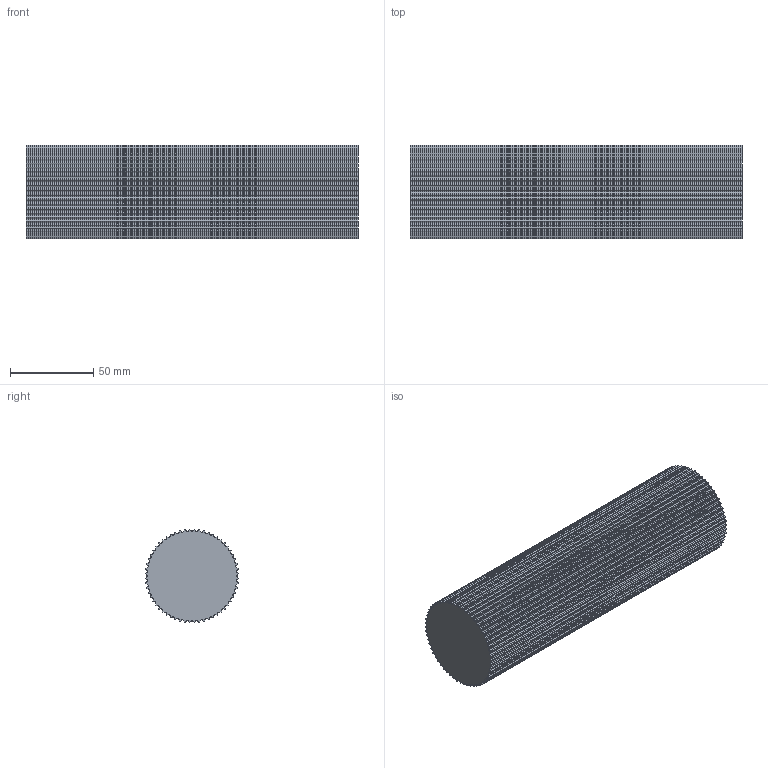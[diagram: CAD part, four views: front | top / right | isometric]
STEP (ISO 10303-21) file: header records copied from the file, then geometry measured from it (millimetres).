
FILE_DESCRIPTION( ( 'STEP AP214' ), '1' );
FILE_NAME( 'C:/Users/StangenbergN/Documents/CAD_Step/1/17096000.stp', '2019-08-23T07:11:51', ( '' ), ( '' ), ' ', 'PARTsolutions', ' ' );
FILE_SCHEMA( ( 'AUTOMOTIVE_DESIGN { 1 0 10303 214 1 1 1 1 }' ) );
Length unit declared in the file: millimetre
Products named in the file (1): _17096000
Bounding box: 200 x 56.46 x 56.46 mm (x, y, z)
Volume: 476197.3 mm3; surface area: 53408.3 mm2
Topology: 1 solids, 1 shells, 482 faces, 1440 edges, 960 vertices
Faces by surface type: cylinder 300, plane 182
Entity records: 20336 total; most frequent: DIRECTION 3006, CARTESIAN_POINT 2883, ORIENTED_EDGE 2880, EDGE_CURVE 1440, AXIS2_PLACEMENT_3D 1083, VERTEX_POINT 960, LINE 840, VECTOR 840
